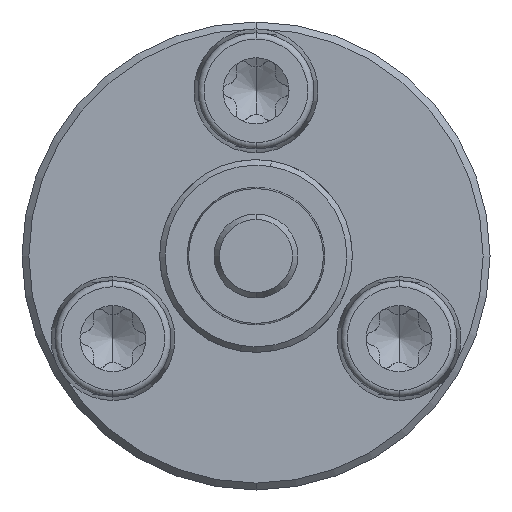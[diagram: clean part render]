
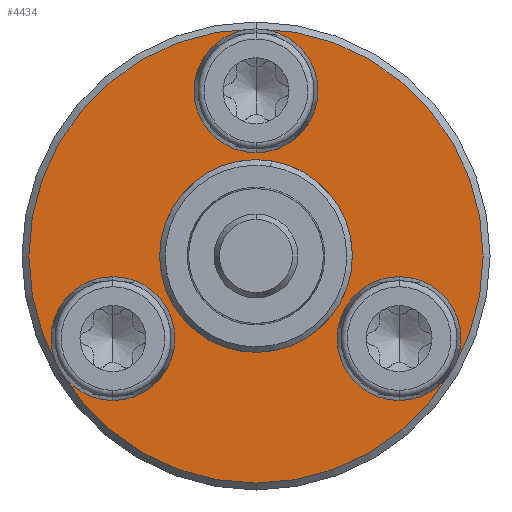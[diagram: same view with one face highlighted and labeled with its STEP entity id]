
A CAD part, front view. The second image highlights one B-rep face of the part: STEP entity #4434.
In plain terms, the highlighted planar face has unit normal (0, -1, 0).
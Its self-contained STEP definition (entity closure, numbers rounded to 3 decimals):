
#28 = AXIS2_PLACEMENT_3D ( 'NONE', #4999, #4998, #4993 ) ;
#73 = AXIS2_PLACEMENT_3D ( 'NONE', #5636, #5634, #5627 ) ;
#193 = DIRECTION ( 'NONE',  ( 0., 0., 1. ) ) ;
#199 = AXIS2_PLACEMENT_3D ( 'NONE', #2291, #5617, #1653 ) ;
#625 = AXIS2_PLACEMENT_3D ( 'NONE', #4337, #4332, #4331 ) ;
#694 = CIRCLE ( 'NONE', #625, 1.45 ) ;
#714 = EDGE_CURVE ( 'NONE', #817, #1968, #5681, .T. ) ;
#766 = EDGE_CURVE ( 'NONE', #6045, #6347, #5848, .T. ) ;
#817 = VERTEX_POINT ( 'NONE', #5349 ) ;
#861 = VERTEX_POINT ( 'NONE', #5115 ) ;
#1086 = EDGE_CURVE ( 'NONE', #5273, #861, #694, .T. ) ;
#1094 = CIRCLE ( 'NONE', #3134, 1.45 ) ;
#1525 = AXIS2_PLACEMENT_3D ( 'NONE', #5394, #5391, #5385 ) ;
#1594 = VERTEX_POINT ( 'NONE', #2807 ) ;
#1651 = DIRECTION ( 'NONE',  ( 0., 0., 1. ) ) ;
#1653 = DIRECTION ( 'NONE',  ( 0., 0., -1. ) ) ;
#1658 = DIRECTION ( 'NONE',  ( 0., 1., 0. ) ) ;
#1661 = CARTESIAN_POINT ( 'NONE',  ( -61.881, -8.295, 4.55 ) ) ;
#1663 = CARTESIAN_POINT ( 'NONE',  ( -61.881, -8.295, 0. ) ) ;
#1686 = PLANE ( 'NONE',  #5347 ) ;
#1698 = ORIENTED_EDGE ( 'NONE', *, *, #3590, .F. ) ;
#1953 = ORIENTED_EDGE ( 'NONE', *, *, #5843, .T. ) ;
#1968 = VERTEX_POINT ( 'NONE', #1661 ) ;
#2059 = ORIENTED_EDGE ( 'NONE', *, *, #766, .T. ) ;
#2291 = CARTESIAN_POINT ( 'NONE',  ( -61.881, -8.295, 6. ) ) ;
#2332 = ORIENTED_EDGE ( 'NONE', *, *, #714, .F. ) ;
#2537 = CIRCLE ( 'NONE', #5781, 8.25 ) ;
#2641 = AXIS2_PLACEMENT_3D ( 'NONE', #5249, #6751, #193 ) ;
#2728 = CARTESIAN_POINT ( 'NONE',  ( -56.684, -8.295, -1.55 ) ) ;
#2774 = CARTESIAN_POINT ( 'NONE',  ( -67.077, -8.295, -1.55 ) ) ;
#2795 = CIRCLE ( 'NONE', #1525, 3.5 ) ;
#2807 = CARTESIAN_POINT ( 'NONE',  ( -56.684, -8.295, -4.45 ) ) ;
#2848 = EDGE_CURVE ( 'NONE', #1968, #817, #5716, .T. ) ;
#2958 = VERTEX_POINT ( 'NONE', #3030 ) ;
#3030 = CARTESIAN_POINT ( 'NONE',  ( -61.881, -8.295, 3.5 ) ) ;
#3069 = FACE_BOUND ( 'NONE', #5141, .T. ) ;
#3100 = EDGE_CURVE ( 'NONE', #6347, #6045, #2537, .T. ) ;
#3134 = AXIS2_PLACEMENT_3D ( 'NONE', #4966, #4965, #4961 ) ;
#3458 = CARTESIAN_POINT ( 'NONE',  ( -61.881, -8.295, 8.25 ) ) ;
#3485 = EDGE_CURVE ( 'NONE', #6487, #1594, #4110, .T. ) ;
#3488 = EDGE_CURVE ( 'NONE', #861, #5273, #1094, .T. ) ;
#3506 = VERTEX_POINT ( 'NONE', #4949 ) ;
#3555 = FACE_BOUND ( 'NONE', #4360, .T. ) ;
#3590 = EDGE_CURVE ( 'NONE', #1594, #6487, #4536, .T. ) ;
#3659 = AXIS2_PLACEMENT_3D ( 'NONE', #4529, #4523, #4517 ) ;
#3738 = ORIENTED_EDGE ( 'NONE', *, *, #2848, .F. ) ;
#4035 = CIRCLE ( 'NONE', #2641, 3.5 ) ;
#4042 = AXIS2_PLACEMENT_3D ( 'NONE', #5477, #5468, #5467 ) ;
#4110 = CIRCLE ( 'NONE', #28, 1.45 ) ;
#4239 = ORIENTED_EDGE ( 'NONE', *, *, #3100, .T. ) ;
#4303 = FACE_BOUND ( 'NONE', #5058, .T. ) ;
#4331 = DIRECTION ( 'NONE',  ( 0., 0., -1. ) ) ;
#4332 = DIRECTION ( 'NONE',  ( 0., -1., 0. ) ) ;
#4337 = CARTESIAN_POINT ( 'NONE',  ( -67.077, -8.295, -3. ) ) ;
#4360 = EDGE_LOOP ( 'NONE', ( #3738, #2332 ) ) ;
#4434 = ADVANCED_FACE ( 'NONE', ( #4739, #3069, #4908, #3555, #4303 ), #1686, .F. ) ;
#4517 = DIRECTION ( 'NONE',  ( 0., 0., -1. ) ) ;
#4523 = DIRECTION ( 'NONE',  ( 0., -1., 0. ) ) ;
#4529 = CARTESIAN_POINT ( 'NONE',  ( -56.684, -8.295, -3. ) ) ;
#4536 = CIRCLE ( 'NONE', #3659, 1.45 ) ;
#4595 = CARTESIAN_POINT ( 'NONE',  ( -61.881, -8.295, -8.25 ) ) ;
#4739 = FACE_OUTER_BOUND ( 'NONE', #6361, .T. ) ;
#4797 = ORIENTED_EDGE ( 'NONE', *, *, #3485, .F. ) ;
#4908 = FACE_BOUND ( 'NONE', #5951, .T. ) ;
#4949 = CARTESIAN_POINT ( 'NONE',  ( -61.881, -8.295, -3.5 ) ) ;
#4961 = DIRECTION ( 'NONE',  ( 0., 0., -1. ) ) ;
#4965 = DIRECTION ( 'NONE',  ( 0., -1., 0. ) ) ;
#4966 = CARTESIAN_POINT ( 'NONE',  ( -67.077, -8.295, -3. ) ) ;
#4993 = DIRECTION ( 'NONE',  ( 0., 0., -1. ) ) ;
#4998 = DIRECTION ( 'NONE',  ( 0., -1., 0. ) ) ;
#4999 = CARTESIAN_POINT ( 'NONE',  ( -56.684, -8.295, -3. ) ) ;
#5058 = EDGE_LOOP ( 'NONE', ( #6368, #1953 ) ) ;
#5115 = CARTESIAN_POINT ( 'NONE',  ( -67.077, -8.295, -4.45 ) ) ;
#5141 = EDGE_LOOP ( 'NONE', ( #1698, #4797 ) ) ;
#5249 = CARTESIAN_POINT ( 'NONE',  ( -61.881, -8.295, 0. ) ) ;
#5273 = VERTEX_POINT ( 'NONE', #2774 ) ;
#5347 = AXIS2_PLACEMENT_3D ( 'NONE', #1663, #1658, #1651 ) ;
#5349 = CARTESIAN_POINT ( 'NONE',  ( -61.881, -8.295, 7.45 ) ) ;
#5385 = DIRECTION ( 'NONE',  ( 0., 0., 1. ) ) ;
#5391 = DIRECTION ( 'NONE',  ( 0., 1., 0. ) ) ;
#5393 = EDGE_CURVE ( 'NONE', #3506, #2958, #4035, .T. ) ;
#5394 = CARTESIAN_POINT ( 'NONE',  ( -61.881, -8.295, 0. ) ) ;
#5467 = DIRECTION ( 'NONE',  ( 0., 0., 1. ) ) ;
#5468 = DIRECTION ( 'NONE',  ( 0., -1., 0. ) ) ;
#5477 = CARTESIAN_POINT ( 'NONE',  ( -61.881, -8.295, 0. ) ) ;
#5617 = DIRECTION ( 'NONE',  ( 0., -1., 0. ) ) ;
#5627 = DIRECTION ( 'NONE',  ( 0., 0., -1. ) ) ;
#5634 = DIRECTION ( 'NONE',  ( 0., -1., 0. ) ) ;
#5636 = CARTESIAN_POINT ( 'NONE',  ( -61.881, -8.295, 6. ) ) ;
#5681 = CIRCLE ( 'NONE', #73, 1.45 ) ;
#5716 = CIRCLE ( 'NONE', #199, 1.45 ) ;
#5781 = AXIS2_PLACEMENT_3D ( 'NONE', #6349, #6341, #6340 ) ;
#5805 = ORIENTED_EDGE ( 'NONE', *, *, #1086, .F. ) ;
#5843 = EDGE_CURVE ( 'NONE', #2958, #3506, #2795, .T. ) ;
#5848 = CIRCLE ( 'NONE', #4042, 8.25 ) ;
#5951 = EDGE_LOOP ( 'NONE', ( #6455, #5805 ) ) ;
#6045 = VERTEX_POINT ( 'NONE', #4595 ) ;
#6340 = DIRECTION ( 'NONE',  ( 0., 0., 1. ) ) ;
#6341 = DIRECTION ( 'NONE',  ( 0., -1., 0. ) ) ;
#6347 = VERTEX_POINT ( 'NONE', #3458 ) ;
#6349 = CARTESIAN_POINT ( 'NONE',  ( -61.881, -8.295, 0. ) ) ;
#6361 = EDGE_LOOP ( 'NONE', ( #4239, #2059 ) ) ;
#6368 = ORIENTED_EDGE ( 'NONE', *, *, #5393, .T. ) ;
#6455 = ORIENTED_EDGE ( 'NONE', *, *, #3488, .F. ) ;
#6487 = VERTEX_POINT ( 'NONE', #2728 ) ;
#6751 = DIRECTION ( 'NONE',  ( 0., 1., 0. ) ) ;
